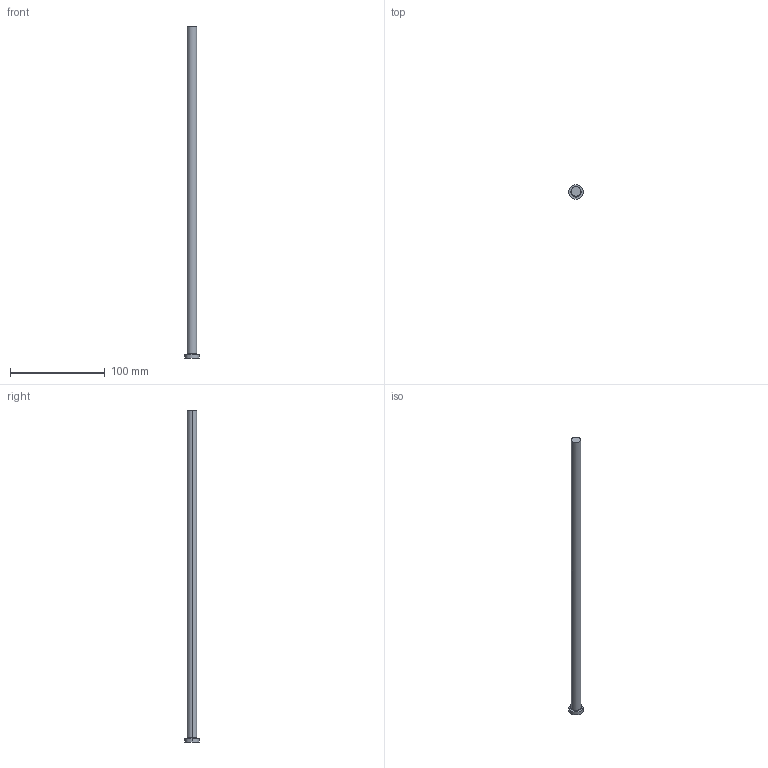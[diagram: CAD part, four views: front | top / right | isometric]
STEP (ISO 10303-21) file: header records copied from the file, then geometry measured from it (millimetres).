
FILE_DESCRIPTION (( 'STEP AP214' ), '1' );
FILE_NAME ('EPHE-B10-350.step', '2024-04-11T21:33:01', ( '' ), ( '' ), 'SwSTEP 2.0', 'SolidWorks 2017', '' );
FILE_SCHEMA (( 'AUTOMOTIVE_DESIGN' ));
Length unit declared in the file: millimetre
Products named in the file (1): EPHE-B10-350
Bounding box: 15 x 15 x 350 mm (x, y, z)
Volume: 27883.4 mm3; surface area: 11405.2 mm2
Topology: 1 solids, 1 shells, 9 faces, 16 edges, 10 vertices
Faces by surface type: cylinder 4, plane 3, torus 2
Entity records: 260 total; most frequent: DIRECTION 48, CARTESIAN_POINT 36, ORIENTED_EDGE 32, AXIS2_PLACEMENT_3D 22, EDGE_CURVE 16, CIRCLE 12, EDGE_LOOP 10, VERTEX_POINT 10
